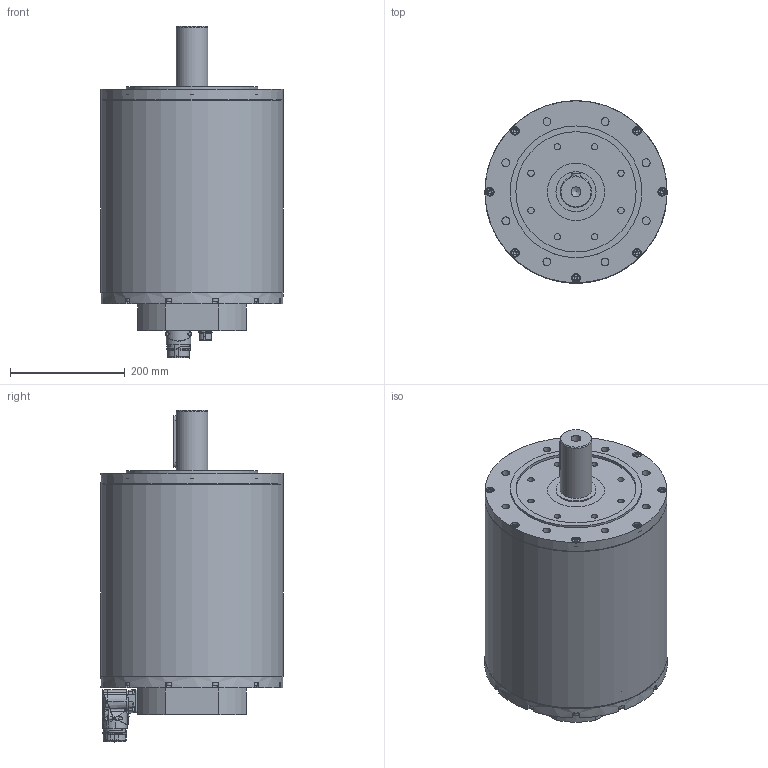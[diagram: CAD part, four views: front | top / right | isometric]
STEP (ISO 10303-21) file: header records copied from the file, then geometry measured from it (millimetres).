
FILE_DESCRIPTION(/* description */ (''),/* implementation_level */ '2;1');
FILE_NAME(/* name */ 'C:\Users\Public\Documents\Autodesk\Inventor LT 2014\Workspace\Motori Sito WEB\TG_8\STEP_DSM5_8x\DSM5_83_x099.stp',/* time_stamp */ '2021-03-31T14:35:55+02:00',/* author */ ('marcor'),/* organization */ (''),/* preprocessor_version */ 'ST-DEVELOPER v15.2',/* originating_system */ 'Autodesk Inventor LT ',/* authorisation */ '');
FILE_SCHEMA (('AUTOMOTIVE_DESIGN { 1 0 10303 214 3 1 1 }'));
Products named in the file (1): DSM5_83_x099
Bounding box: 318 x 318 x 579.5 mm (x, y, z)
Volume: 31697676.7 mm3; surface area: 1078756.3 mm2
Topology: 28 solids, 49 shells, 2004 faces, 5142 edges, 3363 vertices
Faces by surface type: plane 881, cone 450, cylinder 413, bspline 135, torus 108, sphere 17
Full cylindrical faces by diameter (mm): 1.2 x17, 2 x2, 2.013 x4, 2.224 x4, 2.5 x4, 2.88 x4, 3.242 x4, 3.26 x4, 3.6 x5, 4 x5, 4.5 x1, 4.8 x4, 4.917 x16, 5.4 x1, 5.5 x1, 5.9 x1, 6 x16, 6.5 x16, 6.647 x8, 7 x4, 8 x10, 8.5 x1, 9 x7, 10 x16, 10.106 x2, 11 x12, 13 x7, 13.835 x8, 15 x7, 15.2 x1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
Entity records: 65562 total; most frequent: CARTESIAN_POINT 19430, ORIENTED_EDGE 8928, DIRECTION 8774, EDGE_CURVE 4462, AXIS2_PLACEMENT_3D 3492, VERTEX_POINT 3179, EDGE_LOOP 2731, ADVANCED_FACE 2004
